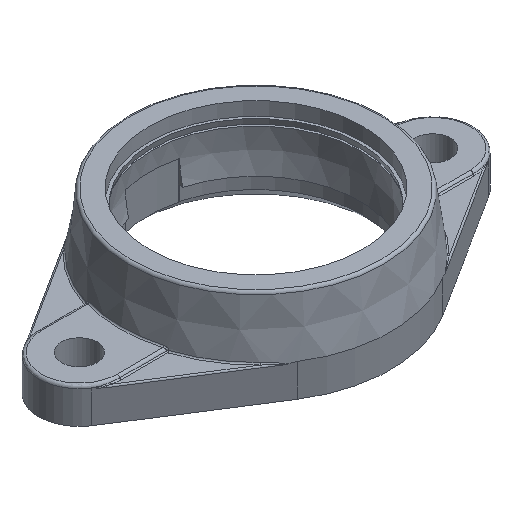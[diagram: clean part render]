
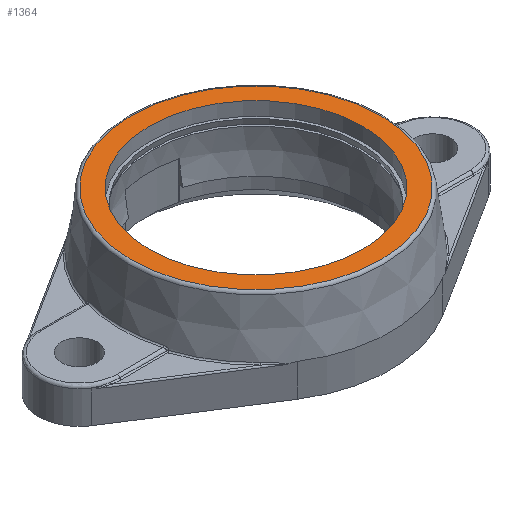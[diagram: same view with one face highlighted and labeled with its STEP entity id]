
A CAD part, isometric view. The second image highlights one B-rep face of the part: STEP entity #1364.
In plain terms, the highlighted planar face has unit normal (0, 0, 1).
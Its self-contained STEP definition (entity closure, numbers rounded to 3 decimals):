
#17=FACE_BOUND('',#355,.T.);
#30=PLANE('',#1524);
#264=FACE_OUTER_BOUND('',#354,.T.);
#354=EDGE_LOOP('',(#1129));
#355=EDGE_LOOP('',(#1130));
#504=CIRCLE('',#1523,87.64);
#505=CIRCLE('',#1525,74.93);
#623=VERTEX_POINT('',#3468);
#624=VERTEX_POINT('',#3472);
#806=EDGE_CURVE('',#623,#623,#504,.T.);
#807=EDGE_CURVE('',#624,#624,#505,.T.);
#1129=ORIENTED_EDGE('',*,*,#806,.F.);
#1130=ORIENTED_EDGE('',*,*,#807,.T.);
#1364=ADVANCED_FACE('',(#264,#17),#30,.T.);
#1523=AXIS2_PLACEMENT_3D('',#3470,#1833,#1834);
#1524=AXIS2_PLACEMENT_3D('',#3471,#1835,#1836);
#1525=AXIS2_PLACEMENT_3D('',#3473,#1837,#1838);
#1833=DIRECTION('center_axis',(0.,0.,-1.));
#1834=DIRECTION('ref_axis',(1.,0.,0.));
#1835=DIRECTION('center_axis',(0.,0.,1.));
#1836=DIRECTION('ref_axis',(1.,0.,0.));
#1837=DIRECTION('center_axis',(0.,0.,-1.));
#1838=DIRECTION('ref_axis',(1.,0.,0.));
#3468=CARTESIAN_POINT('',(87.64,0.,63.));
#3470=CARTESIAN_POINT('Origin',(0.,0.,63.));
#3471=CARTESIAN_POINT('Origin',(-89.378,0.,63.));
#3472=CARTESIAN_POINT('',(74.93,0.,63.));
#3473=CARTESIAN_POINT('Origin',(0.,0.,63.));
